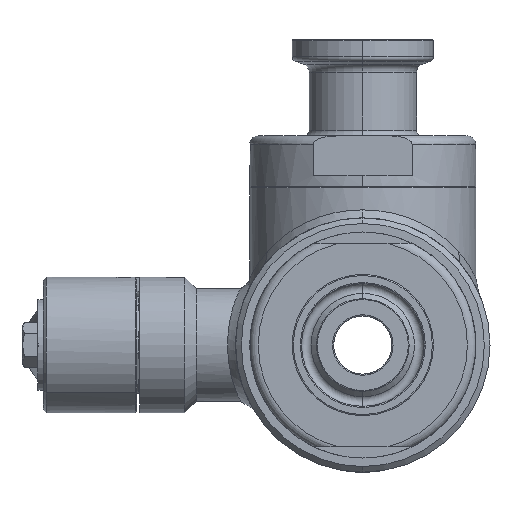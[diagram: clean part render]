
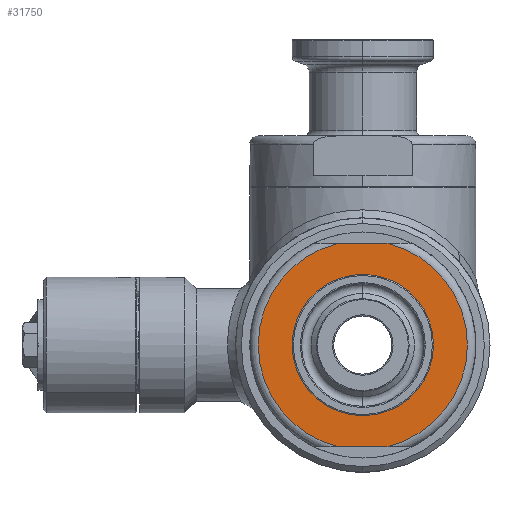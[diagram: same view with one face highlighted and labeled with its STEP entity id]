
A CAD part, left-side view. The second image highlights one B-rep face of the part: STEP entity #31750.
In plain terms, the highlighted planar face has unit normal (-1, 0, 0).
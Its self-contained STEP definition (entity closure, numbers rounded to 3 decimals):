
#3799=CARTESIAN_POINT('',(-37.,0.,0.));
#3800=DIRECTION('',(1.,0.,0.));
#3801=DIRECTION('',(0.,0.,-1.));
#3802=AXIS2_PLACEMENT_3D('',#3799,#3800,#3801);
#3815=CARTESIAN_POINT('',(-37.,0.,0.));
#3816=DIRECTION('',(1.,0.,0.));
#3817=DIRECTION('',(0.,-0.231,0.973));
#3818=AXIS2_PLACEMENT_3D('',#3815,#3816,#3817);
#3823=DIRECTION('',(0.,1.,0.));
#3824=VECTOR('',#3823,8.544);
#3825=CARTESIAN_POINT('',(-37.,-4.272,-18.));
#3826=LINE('',#3825,#3824);
#3830=CARTESIAN_POINT('',(-37.,0.,0.));
#3831=DIRECTION('',(1.,0.,0.));
#3832=DIRECTION('',(0.,0.231,-0.973));
#3833=AXIS2_PLACEMENT_3D('',#3830,#3831,#3832);
#3838=DIRECTION('',(0.,1.,0.));
#3839=VECTOR('',#3838,8.544);
#3840=CARTESIAN_POINT('',(-37.,-4.272,18.));
#3841=LINE('',#3840,#3839);
#3869=CARTESIAN_POINT('',(-37.,-4.272,-18.));
#4030=CARTESIAN_POINT('',(-37.,4.272,18.));
#4065=CARTESIAN_POINT('',(-37.,0.,0.));
#4066=DIRECTION('',(-1.,0.,0.));
#4067=DIRECTION('',(0.,0.,-1.));
#4068=AXIS2_PLACEMENT_3D('',#4065,#4066,#4067);
#28808=CARTESIAN_POINT('',(-37.,0.,-10.5));
#28809=CARTESIAN_POINT('',(-37.,0.,10.5));
#28810=VERTEX_POINT('',#28808);
#28811=VERTEX_POINT('',#28809);
#28901=VERTEX_POINT('',#3869);
#28902=CARTESIAN_POINT('',(-37.,-4.272,18.));
#28903=VERTEX_POINT('',#28902);
#28906=VERTEX_POINT('',#4030);
#28907=CARTESIAN_POINT('',(-37.,4.272,-18.));
#28908=VERTEX_POINT('',#28907);
#31730=CARTESIAN_POINT('',(-37.,0.,0.));
#31731=DIRECTION('',(-1.,0.,0.));
#31732=DIRECTION('',(0.,0.,1.));
#31733=AXIS2_PLACEMENT_3D('',#31730,#31731,#31732);
#31734=PLANE('',#31733);
#31736=ORIENTED_EDGE('',*,*,#31735,.T.);
#31738=ORIENTED_EDGE('',*,*,#31737,.T.);
#31740=ORIENTED_EDGE('',*,*,#31739,.T.);
#31742=ORIENTED_EDGE('',*,*,#31741,.F.);
#31743=EDGE_LOOP('',(#31736,#31738,#31740,#31742));
#31744=FACE_OUTER_BOUND('',#31743,.F.);
#31745=ORIENTED_EDGE('',*,*,#31720,.F.);
#31747=ORIENTED_EDGE('',*,*,#31746,.T.);
#31748=EDGE_LOOP('',(#31745,#31747));
#31749=FACE_BOUND('',#31748,.F.);
#31750=ADVANCED_FACE('',(#31744,#31749),#31734,.T.);
#3803=CIRCLE('',#3802,10.5);
#3819=CIRCLE('',#3818,18.5);
#3834=CIRCLE('',#3833,18.5);
#4069=CIRCLE('',#4068,10.5);
#31720=EDGE_CURVE('',#28810,#28811,#3803,.T.);
#31735=EDGE_CURVE('',#28903,#28901,#3819,.T.);
#31737=EDGE_CURVE('',#28901,#28908,#3826,.T.);
#31739=EDGE_CURVE('',#28908,#28906,#3834,.T.);
#31741=EDGE_CURVE('',#28903,#28906,#3841,.T.);
#31746=EDGE_CURVE('',#28810,#28811,#4069,.T.);
